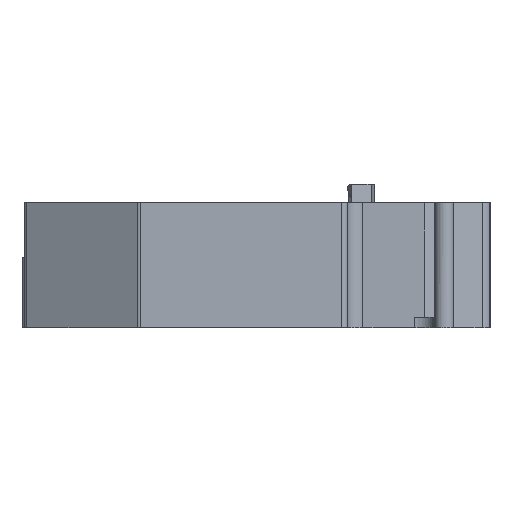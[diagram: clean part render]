
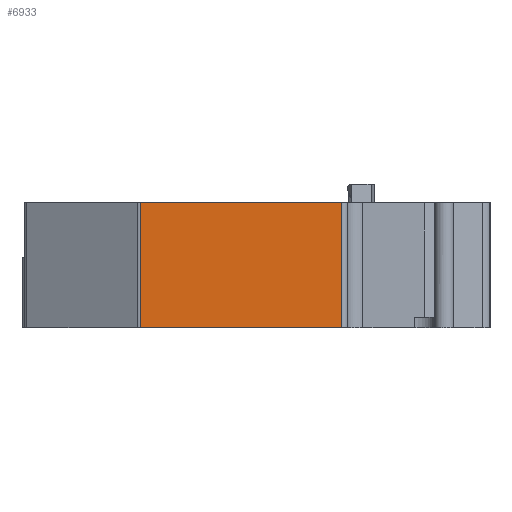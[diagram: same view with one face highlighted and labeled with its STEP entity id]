
A CAD part, left-side view. The second image highlights one B-rep face of the part: STEP entity #6933.
In plain terms, the highlighted planar face has unit normal (-1, 0, 0).
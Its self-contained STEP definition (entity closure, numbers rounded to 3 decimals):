
#381 = EDGE_CURVE ( 'NONE', #4996, #6372, #17010, .T. ) ;
#1976 = VECTOR ( 'NONE', #17577, 1000. ) ;
#3399 = ORIENTED_EDGE ( 'NONE', *, *, #16835, .T. ) ;
#4996 = VERTEX_POINT ( 'NONE', #6375 ) ;
#6372 = VERTEX_POINT ( 'NONE', #13615 ) ;
#6375 = CARTESIAN_POINT ( 'NONE',  ( -46.7, -11.132, 12. ) ) ;
#6933 = ADVANCED_FACE ( 'NONE', ( #12400 ), #13333, .F. ) ;
#6995 = LINE ( 'NONE', #19245, #1976 ) ;
#7156 = CARTESIAN_POINT ( 'NONE',  ( -46.7, -11.132, 12. ) ) ;
#7668 = CARTESIAN_POINT ( 'NONE',  ( -46.7, -10.999, 12. ) ) ;
#8206 = LINE ( 'NONE', #15632, #14386 ) ;
#8452 = AXIS2_PLACEMENT_3D ( 'NONE', #21088, #15222, #9626 ) ;
#8698 = ORIENTED_EDGE ( 'NONE', *, *, #23051, .T. ) ;
#9626 = DIRECTION ( 'NONE',  ( 0., 1., 0. ) ) ;
#10895 = ORIENTED_EDGE ( 'NONE', *, *, #381, .T. ) ;
#11430 = DIRECTION ( 'NONE',  ( 0., -1., 0. ) ) ;
#12400 = FACE_OUTER_BOUND ( 'NONE', #23976, .T. ) ;
#13333 = PLANE ( 'NONE',  #8452 ) ;
#13615 = CARTESIAN_POINT ( 'NONE',  ( -46.7, -11.132, 0. ) ) ;
#14386 = VECTOR ( 'NONE', #17535, 1000. ) ;
#15222 = DIRECTION ( 'NONE',  ( 1., 0., 0. ) ) ;
#15632 = CARTESIAN_POINT ( 'NONE',  ( -46.7, -30.5, 12. ) ) ;
#15719 = ORIENTED_EDGE ( 'NONE', *, *, #21981, .F. ) ;
#16245 = CARTESIAN_POINT ( 'NONE',  ( -46.7, -30.5, 12. ) ) ;
#16835 = EDGE_CURVE ( 'NONE', #23436, #24391, #8206, .T. ) ;
#17010 = LINE ( 'NONE', #7156, #19076 ) ;
#17535 = DIRECTION ( 'NONE',  ( 0., 0., 1. ) ) ;
#17577 = DIRECTION ( 'NONE',  ( 0., -1., 0. ) ) ;
#19076 = VECTOR ( 'NONE', #20350, 1000. ) ;
#19245 = CARTESIAN_POINT ( 'NONE',  ( -46.7, -10.999, 0. ) ) ;
#20350 = DIRECTION ( 'NONE',  ( 0., 0., -1. ) ) ;
#21088 = CARTESIAN_POINT ( 'NONE',  ( -46.7, -10.999, 12. ) ) ;
#21981 = EDGE_CURVE ( 'NONE', #4996, #24391, #24172, .T. ) ;
#22447 = CARTESIAN_POINT ( 'NONE',  ( -46.7, -30.5, 0. ) ) ;
#23051 = EDGE_CURVE ( 'NONE', #6372, #23436, #6995, .T. ) ;
#23436 = VERTEX_POINT ( 'NONE', #22447 ) ;
#23976 = EDGE_LOOP ( 'NONE', ( #15719, #10895, #8698, #3399 ) ) ;
#24172 = LINE ( 'NONE', #7668, #24446 ) ;
#24391 = VERTEX_POINT ( 'NONE', #16245 ) ;
#24446 = VECTOR ( 'NONE', #11430, 1000. ) ;
